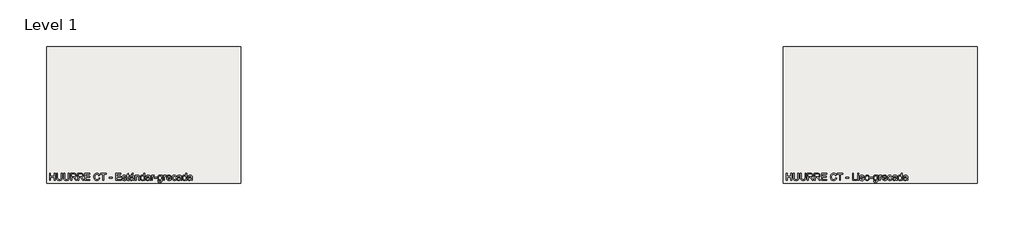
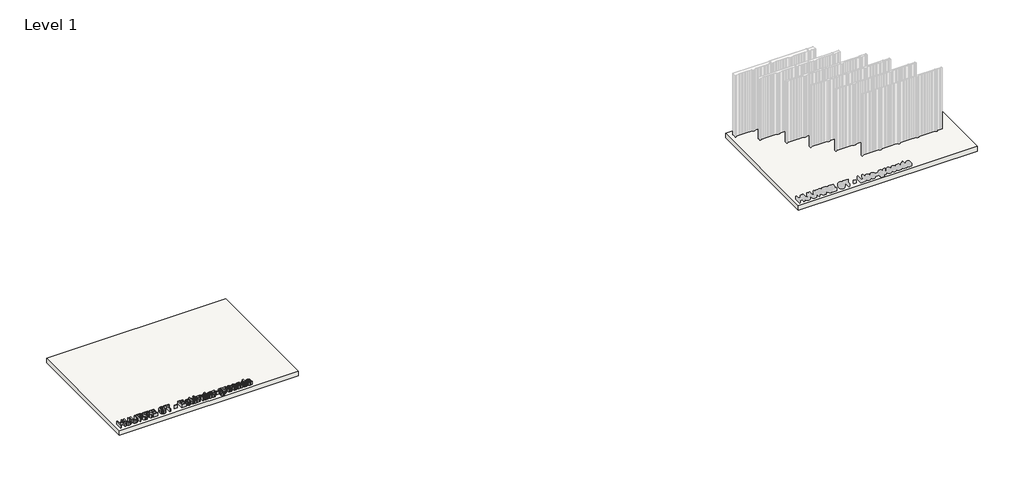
# One storey, part 1 of 2: 2 slabs, 1 proxy.
"""IFC4 building model written with IfcOpenShell, lengths in millimetres."""

from ifc_helpers import new_model, si_unit, frame, origin, origin_with_axes, place, context, project, spatial, polyline, outline, extrude, element, save

model = new_model("IFC4")

# Units and contexts
model_context = context("Model", 3, world=origin())
ifc_project = project(units=[si_unit("LENGTHUNIT", "METRE", prefix="MILLI")], contexts=[model_context])

# Site, building, storey
site = spatial("IfcSite", under=ifc_project)
building = spatial("IfcBuilding", under=site)
storey = spatial("IfcBuildingStorey", under=building, Name="Level 1", Elevation=0.0)

# Proxy
placement = place(None, origin())
element("IfcBuildingElementProxy", 1, Name="200mm Arial", ObjectType="200mm Arial", at=placement, inside=storey, context=model_context, shape_type="SweptSolid", body=[
    extrude(outline(polyline([(-8319.1902574, 798.4307978), (-8319.1902574, 999.3434181), (-8294.0761799, 999.3434181), (-8294.0761799, 917.7226661), (-8187.3413503, 917.7226661), (-8187.3413503, 999.3434181), (-8162.2272728, 999.3434181), (-8162.2272728, 798.4307978), (-8187.3413503, 798.4307978), (-8187.3413503, 892.6085886), (-8294.0761799, 892.6085886), (-8294.0761799, 798.4307978), (-8319.1902574, 798.4307978)])), origin_with_axes(), (0.0, 0.0, 1.0), 100.0),
    extrude(outline(polyline([(-7986.42873, 999.3434181), (-7961.3146525, 999.3434181), (-7961.3146525, 883.4360642), (-7963.0191724, 856.2925043), (-7968.1327321, 835.3906756), (-7977.6854013, 819.2651815), (-7992.7072494, 806.4506253), (-8013.2350647, 798.0813099), (-8039.3056355, 795.2915381), (-8064.8059891, 797.7195593), (-8085.192783, 805.0036228), (-8100.4721485, 816.8923426), (-8110.6502171, 833.1343327), (-8116.3707821, 854.9190782), (-8118.2776371, 883.4360642), (-8118.2776371, 999.3434181), (-8093.1635596, 999.3434181), (-8093.1635596, 884.318981), (-8091.9250235, 861.7494205), (-8088.2094154, 846.034728), (-8081.4771748, 835.1515523), (-8071.1887417, 827.0765425), (-8057.7733116, 822.0733474), (-8041.6600802, 820.4056157), (-8016.116807, 823.7042909), (-7999.1329216, 833.6003165), (-7989.6047779, 852.8773331), (-7986.42873, 884.318981), (-7986.42873, 999.3434181)])), origin_with_axes(), (0.0, 0.0, 1.0), 100.0),
    extrude(outline(polyline([(-7785.5161097, 999.3434181), (-7760.4020322, 999.3434181), (-7760.4020322, 883.4360642), (-7762.1065521, 856.2925043), (-7767.2201118, 835.3906756), (-7776.772781, 819.2651815), (-7791.7946291, 806.4506253), (-7812.3224444, 798.0813099), (-7838.3930152, 795.2915381), (-7863.8933688, 797.7195593), (-7884.2801627, 805.0036228), (-7899.5595282, 816.8923426), (-7909.7375968, 833.1343327), (-7915.4581618, 854.9190782), (-7917.3650168, 883.4360642), (-7917.3650168, 999.3434181), (-7892.2509393, 999.3434181), (-7892.2509393, 884.318981), (-7891.0124032, 861.7494205), (-7887.2967951, 846.034728), (-7880.5645545, 835.1515523), (-7870.2761214, 827.0765425), (-7856.8606913, 822.0733474), (-7840.7474599, 820.4056157), (-7815.2041867, 823.7042909), (-7798.2203013, 833.6003165), (-7788.6921576, 852.8773331), (-7785.5161097, 884.318981), (-7785.5161097, 999.3434181)])), origin_with_axes(), (0.0, 0.0, 1.0), 100.0),
    extrude(outline(polyline([(-7716.4523965, 798.4307978), (-7716.4523965, 999.3434181), (-7629.8775003, 999.3434181), (-7606.6089641, 997.9883861), (-7589.680261, 993.92329), (-7577.3071632, 986.4184973), (-7567.7054431, 974.7443754), (-7561.5434197, 960.2682189), (-7559.4894119, 944.3573226), (-7562.8923203, 924.5652712), (-7573.1010457, 908.1577342), (-7590.4221563, 896.127993), (-7615.1622205, 889.4693289), (-7600.8883991, 878.7271746), (-7580.532262, 852.8773331), (-7547.030475, 798.4307978), (-7576.2157799, 798.4307978), (-7602.3599271, 840.0750397), (-7621.2445361, 867.6416638), (-7634.5128134, 880.6646865), (-7646.4567156, 885.4471524), (-7661.0248426, 886.3300692), (-7691.338319, 886.3300692), (-7691.338319, 798.4307978), (-7716.4523965, 798.4307978)]), holes=[polyline([(-7691.338319, 911.4441467), (-7635.1259501, 911.4441467), (-7606.4556799, 915.0003393), (-7597.0256381, 919.6233898), (-7590.1707703, 926.3801557), (-7584.6034894, 943.4253548), (-7587.2583712, 955.6758253), (-7595.2230164, 965.5473255), (-7608.9266207, 972.0588368), (-7628.7983798, 974.2293406), (-7691.338319, 974.2293406), (-7691.338319, 911.4441467)])]), origin_with_axes(), (0.0, 0.0, 1.0), 100.0),
    extrude(outline(polyline([(-7515.5397762, 798.4307978), (-7515.5397762, 999.3434181), (-7428.96488, 999.3434181), (-7405.6963438, 997.9883861), (-7388.7676407, 993.92329), (-7376.3945429, 986.4184973), (-7366.7928228, 974.7443754), (-7360.6307994, 960.2682189), (-7358.5767916, 944.3573226), (-7361.9797, 924.5652712), (-7372.1884254, 908.1577342), (-7389.509536, 896.127993), (-7414.2496002, 889.4693289), (-7399.9757788, 878.7271746), (-7379.6196417, 852.8773331), (-7346.1178547, 798.4307978), (-7375.3031596, 798.4307978), (-7401.4473068, 840.0750397), (-7420.3319158, 867.6416638), (-7433.6001931, 880.6646865), (-7445.5440953, 885.4471524), (-7460.1122223, 886.3300692), (-7490.4256987, 886.3300692), (-7490.4256987, 798.4307978), (-7515.5397762, 798.4307978)]), holes=[polyline([(-7490.4256987, 911.4441467), (-7434.2133298, 911.4441467), (-7405.5430596, 915.0003393), (-7396.1130178, 919.6233898), (-7389.25815, 926.3801557), (-7383.6908691, 943.4253548), (-7386.3457509, 955.6758253), (-7394.3103961, 965.5473255), (-7408.0140004, 972.0588368), (-7427.8857595, 974.2293406), (-7490.4256987, 974.2293406), (-7490.4256987, 911.4441467)])]), origin_with_axes(), (0.0, 0.0, 1.0), 100.0),
    extrude(outline(polyline([(-7314.6271559, 798.4307978), (-7314.6271559, 999.3434181), (-7170.2212101, 999.3434181), (-7170.2212101, 974.2293406), (-7289.5130784, 974.2293406), (-7289.5130784, 914.5834064), (-7176.4997294, 914.5834064), (-7176.4997294, 889.4693289), (-7289.5130784, 889.4693289), (-7289.5130784, 823.5448753), (-7167.0819504, 823.5448753), (-7167.0819504, 798.4307978), (-7314.6271559, 798.4307978)])), origin_with_axes(), (0.0, 0.0, 1.0), 100.0),
    extrude(outline(polyline([(-6909.6626556, 869.8489558), (-6884.5485781, 863.3742327), (-6896.1368609, 834.10922), (-6914.3224942, 812.7291447), (-6938.2102984, 799.6509398), (-6966.9050941, 795.2915381), (-6996.0352167, 798.5902133), (-7019.1688628, 808.486239), (-7036.900775, 824.6362586), (-7049.8256958, 846.6969156), (-7057.7167646, 872.6325962), (-7060.3471208, 900.4076869), (-7057.373408, 929.7033564), (-7048.4522697, 955.001375), (-7034.0496895, 975.4985335), (-7014.6316516, 990.3916229), (-6991.6022387, 999.4599141), (-6966.3655338, 1002.4826778), (-6938.8295665, 998.5708659), (-6916.0638023, 986.8354303), (-6898.7794799, 967.9998721), (-6887.6878378, 942.7876927), (-6912.8019153, 936.8034789), (-6921.5084559, 955.1178709), (-6933.403307, 967.6810411), (-6948.6336216, 974.9467105), (-6967.3465525, 977.3686003), (-6988.9167001, 974.6830617), (-7006.6363495, 966.626446), (-7020.0824365, 954.0448818), (-7028.8318966, 937.7844976), (-7033.6327566, 919.4026606), (-7035.2330433, 900.4567378), (-7033.338451, 877.2556466), (-7027.6546742, 857.1938152), (-7017.967115, 841.0376642), (-7004.0611756, 829.5536146), (-6987.3899898, 822.6926154), (-6969.4066916, 820.4056157), (-6948.4435493, 823.5203499), (-6930.9752859, 832.8645526), (-6917.7867163, 848.3401218), (-6909.6626556, 869.8489558)])), origin_with_axes(), (0.0, 0.0, 1.0), 100.0),
    extrude(outline(polyline([(-6799.7885664, 798.4307978), (-6799.7885664, 974.2293406), (-6865.7130199, 974.2293406), (-6865.7130199, 999.3434181), (-6708.7500353, 999.3434181), (-6708.7500353, 974.2293406), (-6774.6744888, 974.2293406), (-6774.6744888, 798.4307978), (-6799.7885664, 798.4307978)])), origin_with_axes(), (0.0, 0.0, 1.0), 100.0),
    extrude(outline(polyline([(-6617.7115042, 858.076732), (-6617.7115042, 883.1908095), (-6539.2300119, 883.1908095), (-6539.2300119, 858.076732), (-6617.7115042, 858.076732)])), origin_with_axes(), (0.0, 0.0, 1.0), 100.0),
    extrude(outline(polyline([(-6429.3559227, 798.4307978), (-6429.3559227, 999.3434181), (-6284.9499769, 999.3434181), (-6284.9499769, 974.2293406), (-6404.2418452, 974.2293406), (-6404.2418452, 914.5834064), (-6291.2284963, 914.5834064), (-6291.2284963, 889.4693289), (-6404.2418452, 889.4693289), (-6404.2418452, 823.5448753), (-6281.8107172, 823.5448753), (-6281.8107172, 798.4307978), (-6429.3559227, 798.4307978)])), origin_with_axes(), (0.0, 0.0, 1.0), 100.0),
    extrude(outline(polyline([(-6256.6966396, 842.3804335), (-6231.5825621, 845.5196932), (-6227.6216993, 834.7775389), (-6219.9574911, 826.8803388), (-6208.5408865, 822.0242964), (-6193.3228346, 820.4056157), (-6178.2887237, 821.8894064), (-6167.7182477, 826.3407785), (-6161.4642538, 832.7909762), (-6159.3795892, 840.2712434), (-6161.4765166, 846.6723901), (-6167.7672987, 851.5529579), (-6193.6171402, 858.7143941), (-6231.4354093, 871.0016527), (-6241.0064725, 877.1759389), (-6247.9410482, 885.3490505), (-6253.5573799, 905.6070857), (-6249.0446941, 924.3200166), (-6236.73291, 938.6183634), (-6220.7668314, 946.0495797), (-6199.1598956, 949.115263), (-6168.6011645, 944.1856443), (-6157.1722972, 938.3853715), (-6149.1769952, 930.8437906), (-6140.544031, 908.304887), (-6165.6581086, 905.1656273), (-6168.8280251, 913.0689589), (-6175.1004131, 919.0225158), (-6197.1978583, 924.0011855), (-6211.6188325, 922.8117004), (-6221.2328153, 919.243245), (-6226.6406806, 914.0928971), (-6228.4433024, 908.1577342), (-6225.4511955, 900.8491453), (-6216.0824674, 895.3063899), (-6194.4510061, 889.9598382), (-6157.5892301, 878.1385634), (-6140.4704546, 864.7476588), (-6135.8167474, 854.9006841), (-6134.2655116, 842.9199938), (-6136.0865275, 830.5346333), (-6141.5495751, 818.8850367), (-6150.4461881, 808.8847778), (-6162.5678998, 801.4474302), (-6177.2096032, 796.8305111), (-6193.6661911, 795.2915381), (-6218.9887351, 798.2591195), (-6237.468674, 807.1618638), (-6249.8049836, 821.9016691), (-6256.6966396, 842.3804335)])), origin_with_axes(), (0.0, 0.0, 1.0), 100.0),
    extrude(outline(polyline([(-6052.6447596, 819.3755461), (-6049.5055, 797.6950338), (-6068.2920072, 795.2915381), (-6089.3348573, 799.4608674), (-6099.8317569, 810.3992254), (-6102.8729147, 838.8978173), (-6102.8729147, 920.8619258), (-6121.7084729, 920.8619258), (-6121.7084729, 945.9760033), (-6102.8729147, 945.9760033), (-6102.8729147, 981.8322351), (-6077.7588372, 996.5965659), (-6077.7588372, 945.9760033), (-6052.6447596, 945.9760033), (-6052.6447596, 920.8619258), (-6077.7588372, 920.8619258), (-6077.7588372, 839.6335813), (-6076.434462, 826.684135), (-6072.1425054, 822.0978728), (-6063.5831176, 820.4056157), (-6052.6447596, 819.3755461)])), origin_with_axes(), (0.0, 0.0, 1.0), 100.0),
    extrude(outline(polyline([(-5933.3528913, 817.266356), (-5957.7066794, 800.2456823), (-5984.611116, 795.2915381), (-6005.5987838, 798.2713823), (-6021.0804845, 807.2109148), (-6030.6270222, 820.7857604), (-6033.8092015, 837.671544), (-6029.0022101, 857.5371717), (-6016.3715949, 871.9581459), (-5998.7868356, 880.1987026), (-5977.0572724, 883.9756244), (-5933.5000441, 892.6085886), (-5933.3528913, 898.2003949), (-5935.0819367, 909.408533), (-5940.2690729, 916.7416475), (-5951.8696184, 922.186301), (-5968.0319008, 924.0011855), (-5982.9924352, 922.7933063), (-5993.4402839, 919.1696686), (-6000.5649319, 912.4680849), (-6005.5558643, 902.0263677), (-6030.6699418, 905.1656273), (-6019.8051602, 929.6910937), (-6010.5467967, 937.9439131), (-5997.9284442, 944.063017), (-5964.7945392, 949.115263), (-5934.3584355, 944.6516282), (-5917.1660836, 933.44349), (-5909.4650871, 916.3982909), (-5908.2388138, 894.4234731), (-5908.2388138, 863.178029), (-5906.9634896, 819.5472243), (-5901.9602944, 798.4307978), (-5927.074372, 798.4307978), (-5933.3528913, 817.266356)]), holes=[polyline([(-5933.3528913, 867.494511), (-5973.8689617, 859.7935146), (-5995.4758976, 855.7222872), (-6005.2615587, 849.1004113), (-6008.695124, 839.4373775), (-6006.8250571, 831.969373), (-6001.2148567, 825.8502692), (-5991.98715, 821.766779), (-5979.2645643, 820.4056157), (-5965.7755579, 821.9078005), (-5953.8561812, 826.4143549), (-5937.4731697, 840.9579565), (-5933.5000441, 860.3821258), (-5933.3528913, 867.494511)])]), origin_with_axes(), (0.0, 0.0, 1.0), 100.0),
    extrude(outline(polyline([(-5983.5810464, 961.6723018), (-5964.7454883, 999.3434181), (-5933.3528913, 999.3434181), (-5964.7454883, 961.6723018), (-5983.5810464, 961.6723018)])), origin_with_axes(), (0.0, 0.0, 1.0), 100.0),
    extrude(outline(polyline([(-5873.7069572, 798.4307978), (-5873.7069572, 945.9760033), (-5848.5928797, 945.9760033), (-5848.5928797, 925.3746116), (-5839.867945, 935.7611466), (-5829.3894395, 943.1801002), (-5817.1573632, 947.6314723), (-5803.171716, 949.115263), (-5779.45559, 944.3327971), (-5763.2687822, 931.7757583), (-5755.7394641, 913.3080822), (-5754.4150889, 889.0278705), (-5754.4150889, 798.4307978), (-5779.5291664, 798.4307978), (-5779.5291664, 885.6433561), (-5782.4231715, 907.8634286), (-5792.6502909, 919.611127), (-5809.8916938, 924.0011855), (-5824.6008422, 921.5363761), (-5837.1394869, 914.141948), (-5845.7295315, 899.8558639), (-5848.5928797, 876.7160864), (-5848.5928797, 798.4307978), (-5873.7069572, 798.4307978)])), origin_with_axes(), (0.0, 0.0, 1.0), 100.0),
    extrude(outline(polyline([(-5628.8447012, 798.4307978), (-5628.8447012, 822.1223983), (-5636.358691, 810.383897), (-5645.4607047, 801.9992532), (-5656.1507423, 796.9684669), (-5668.4288039, 795.2915381), (-5684.6646626, 797.7195593), (-5699.5270952, 805.0036228), (-5712.1086594, 816.6348252), (-5721.5019131, 832.1042631), (-5727.3512368, 850.7865371), (-5729.3010114, 872.0562478), (-5727.5045209, 893.0623097), (-5722.1150497, 912.0327579), (-5713.138729, 927.8884719), (-5700.5816903, 939.5503312), (-5685.3942952, 946.7240301), (-5668.5269058, 949.115263), (-5656.2396471, 947.4046118), (-5645.3748655, 942.2726579), (-5628.8447012, 924.4916948), (-5628.8447012, 999.3434181), (-5603.7306237, 999.3434181), (-5603.7306237, 798.4307978), (-5628.8447012, 798.4307978)]), holes=[polyline([(-5704.1869338, 872.1543496), (-5701.3542425, 849.4376364), (-5692.8561684, 833.2814855), (-5680.5075961, 823.6245831), (-5666.12341, 820.4056157), (-5651.7453554, 823.4774303), (-5639.7094828, 832.6928743), (-5631.5608966, 848.2236259), (-5628.8447012, 870.2413633), (-5631.6099475, 894.3131085), (-5639.9056865, 911.0026883), (-5652.2481275, 920.7515612), (-5667.1534796, 924.0011855), (-5681.6848184, 920.8803199), (-5693.5919324, 911.5177231), (-5701.5381835, 895.4351486), (-5704.1869338, 872.1543496)])]), origin_with_axes(), (0.0, 0.0, 1.0), 100.0),
    extrude(outline(polyline([(-5471.8817166, 817.266356), (-5496.2355047, 800.2456823), (-5523.1399413, 795.2915381), (-5544.1276091, 798.2713823), (-5559.6093097, 807.2109148), (-5569.1558475, 820.7857604), (-5572.3380267, 837.671544), (-5567.5310353, 857.5371717), (-5554.9004202, 871.9581459), (-5537.3156608, 880.1987026), (-5515.5860976, 883.9756244), (-5472.0288694, 892.6085886), (-5471.8817166, 898.2003949), (-5473.610762, 909.408533), (-5478.7978981, 916.7416475), (-5490.3984437, 922.186301), (-5506.560726, 924.0011855), (-5521.5212605, 922.7933063), (-5531.9691091, 919.1696686), (-5539.0937571, 912.4680849), (-5544.0846895, 902.0263677), (-5569.1987671, 905.1656273), (-5558.3339855, 929.6910937), (-5549.0756219, 937.9439131), (-5536.4572695, 944.063017), (-5503.3233644, 949.115263), (-5472.8872607, 944.6516282), (-5455.6949088, 933.44349), (-5447.9939124, 916.3982909), (-5446.7676391, 894.4234731), (-5446.7676391, 863.178029), (-5445.4923148, 819.5472243), (-5440.4891197, 798.4307978), (-5465.6031972, 798.4307978), (-5471.8817166, 817.266356)]), holes=[polyline([(-5471.8817166, 867.494511), (-5512.397787, 859.7935146), (-5534.0047228, 855.7222872), (-5543.7903839, 849.1004113), (-5547.2239492, 839.4373775), (-5545.3538824, 831.969373), (-5539.743682, 825.8502692), (-5530.5159753, 821.766779), (-5517.7933896, 820.4056157), (-5504.3043831, 821.9078005), (-5492.3850065, 826.4143549), (-5476.0019949, 840.9579565), (-5472.0288694, 860.3821258), (-5471.8817166, 867.494511)])]), origin_with_axes(), (0.0, 0.0, 1.0), 100.0),
    extrude(outline(polyline([(-5412.2357824, 798.4307978), (-5412.2357824, 945.9760033), (-5390.2609646, 945.9760033), (-5390.2609646, 924.1483383), (-5374.662768, 944.2592207), (-5358.9664695, 949.115263), (-5346.4584817, 947.1777512), (-5333.7542901, 941.3652157), (-5342.1419996, 918.8508376), (-5359.8003354, 924.0011855), (-5374.0005804, 919.0470413), (-5383.0504775, 905.3127801), (-5387.1217049, 875.9803224), (-5387.1217049, 798.4307978), (-5412.2357824, 798.4307978)])), origin_with_axes(), (0.0, 0.0, 1.0), 100.0),
    extrude(outline(polyline([(-5330.6150304, 858.076732), (-5330.6150304, 883.1908095), (-5252.1335381, 883.1908095), (-5252.1335381, 858.076732), (-5330.6150304, 858.076732)])), origin_with_axes(), (0.0, 0.0, 1.0), 100.0),
    extrude(outline(polyline([(-5230.1587203, 785.873759), (-5205.0446428, 782.7344994), (-5202.2732651, 774.8863501), (-5196.9021879, 769.4907475), (-5186.3439747, 765.2968928), (-5172.5238744, 763.8989412), (-5157.7840691, 765.4808338), (-5146.8211857, 770.2265115), (-5139.2182911, 777.8294061), (-5134.5584525, 787.9829491), (-5132.8416698, 817.266356), (-5150.5245311, 803.1396873), (-5172.082416, 798.4307978), (-5197.9751771, 803.9122395), (-5217.2828505, 820.3565647), (-5229.2941976, 844.4650981), (-5233.29798, 872.9391646), (-5231.5014896, 893.2155939), (-5226.1120184, 911.8610797), (-5217.3196387, 927.6616113), (-5205.3144229, 939.4031784), (-5190.5071726, 946.6872419), (-5173.3086893, 949.115263), (-5150.9046758, 943.6215586), (-5132.8416698, 927.1404452), (-5132.8416698, 945.9760033), (-5107.7275923, 945.9760033), (-5107.7275923, 818.5907311), (-5109.4443749, 789.1785656), (-5114.5947229, 769.8095786), (-5123.4668103, 756.9643656), (-5136.3488115, 747.1235222), (-5152.9586836, 740.8695283), (-5173.0143837, 738.7848637), (-5196.3810218, 741.7217883), (-5214.7812529, 750.532562), (-5226.5841336, 765.2417105), (-5230.1587203, 785.873759)]), holes=[polyline([(-5208.1839025, 874.6559472), (-5205.5044953, 851.6204029), (-5197.4662737, 835.7830831), (-5185.3813501, 826.6044273), (-5170.5618371, 823.5448753), (-5155.8526886, 826.5860332), (-5143.7064514, 835.7095067), (-5135.5578652, 851.3444915), (-5132.8416698, 873.9201832), (-5135.637573, 895.692666), (-5144.0252825, 911.3705703), (-5156.3493293, 920.8435317), (-5170.9542445, 924.0011855), (-5185.295511, 920.8925826), (-5197.3191209, 911.5667741), (-5205.4677071, 896.1218616), (-5208.1839025, 874.6559472)])]), origin_with_axes(), (0.0, 0.0, 1.0), 100.0),
    extrude(outline(polyline([(-5070.056476, 798.4307978), (-5070.056476, 945.9760033), (-5048.0816582, 945.9760033), (-5048.0816582, 924.1483383), (-5032.4834616, 944.2592207), (-5016.7871631, 949.115263), (-5004.2791753, 947.1777512), (-4991.5749837, 941.3652157), (-4999.9626932, 918.8508376), (-5017.621029, 924.0011855), (-5031.821274, 919.0470413), (-5040.871171, 905.3127801), (-5044.9423985, 875.9803224), (-5044.9423985, 798.4307978), (-5070.056476, 798.4307978)])), origin_with_axes(), (0.0, 0.0, 1.0), 100.0),
    extrude(outline(polyline([(-4872.577421, 842.3804335), (-4847.9538528, 839.2411738), (-4856.8259402, 820.6876585), (-4870.9832657, 806.8185073), (-4890.1069981, 798.1732804), (-4913.8783063, 795.2915381), (-4943.3456541, 800.2640764), (-4966.0194478, 815.1816913), (-4980.4772102, 839.0756269), (-4985.2964643, 870.9771273), (-4980.4281592, 903.9516168), (-4965.823244, 928.6119732), (-4943.4560187, 943.9894406), (-4915.3007834, 949.115263), (-4888.0223334, 944.0017033), (-4866.2253252, 928.6610241), (-4851.9331097, 904.0497186), (-4847.1690379, 871.1242801), (-4847.3161907, 864.3552513), (-4960.1823868, 864.3552513), (-4955.8352479, 845.5564814), (-4945.7368871, 831.7363811), (-4931.1626287, 823.238307), (-4913.387797, 820.4056157), (-4888.7642288, 825.6540655), (-4879.6162298, 832.4598824), (-4872.577421, 842.3804335)]), holes=[polyline([(-4960.1823868, 889.4693289), (-4872.2831154, 889.4693289), (-4875.6798925, 902.7376062), (-4882.3385566, 912.2289617), (-4896.98026, 921.0581295), (-4915.3988852, 924.0011855), (-4932.3275884, 921.6528721), (-4946.3254983, 914.6079319), (-4956.0559771, 903.6266543), (-4960.1823868, 889.4693289)])]), origin_with_axes(), (0.0, 0.0, 1.0), 100.0),
    extrude(outline(polyline([(-4727.8771695, 851.7982126), (-4702.763092, 848.6589529), (-4709.7651127, 826.3223844), (-4722.9230253, 809.4427322), (-4740.998294, 798.8293366), (-4762.7523827, 795.2915381), (-4789.4667469, 800.2272882), (-4810.3563129, 815.0345385), (-4823.839188, 839.0633642), (-4828.3334797, 871.6638403), (-4826.414362, 894.0126715), (-4820.6570087, 913.3816586), (-4810.9694495, 929.0227747), (-4797.2597138, 940.1879933), (-4780.8583082, 946.8834456), (-4763.0957392, 949.115263), (-4741.8750795, 946.0495797), (-4724.9095881, 936.8525299), (-4712.7388254, 922.0146227), (-4705.9023517, 902.0263677), (-4731.0164292, 898.887108), (-4735.5720346, 909.8438601), (-4742.6660258, 917.6981406), (-4751.9059952, 922.4254243), (-4762.8995355, 924.0011855), (-4779.1292628, 920.898714), (-4792.011264, 911.5912995), (-4800.4173676, 895.57617), (-4803.2194022, 872.3505534), (-4800.4786813, 848.8122371), (-4792.2565187, 832.7419252), (-4779.6075094, 823.489693), (-4763.5862485, 820.4056157), (-4750.58162, 822.3308648), (-4739.9191735, 828.1066121), (-4732.1629948, 837.8800104), (-4727.8771695, 851.7982126)])), origin_with_axes(), (0.0, 0.0, 1.0), 100.0),
    extrude(outline(polyline([(-4586.6104834, 817.266356), (-4610.9642715, 800.2456823), (-4637.8687081, 795.2915381), (-4658.8563759, 798.2713823), (-4674.3380765, 807.2109148), (-4683.8846143, 820.7857604), (-4687.0667936, 837.671544), (-4682.2598021, 857.5371717), (-4669.629187, 871.9581459), (-4652.0444276, 880.1987026), (-4630.3148644, 883.9756244), (-4586.7576362, 892.6085886), (-4586.6104834, 898.2003949), (-4588.3395288, 909.408533), (-4593.5266649, 916.7416475), (-4605.1272105, 922.186301), (-4621.2894928, 924.0011855), (-4636.2500273, 922.7933063), (-4646.6978759, 919.1696686), (-4653.8225239, 912.4680849), (-4658.8134563, 902.0263677), (-4683.9275339, 905.1656273), (-4673.0627523, 929.6910937), (-4663.8043887, 937.9439131), (-4651.1860363, 944.063017), (-4618.0521313, 949.115263), (-4587.6160275, 944.6516282), (-4570.4236756, 933.44349), (-4562.7226792, 916.3982909), (-4561.4964059, 894.4234731), (-4561.4964059, 863.178029), (-4560.2210816, 819.5472243), (-4555.2178865, 798.4307978), (-4580.331964, 798.4307978), (-4586.6104834, 817.266356)]), holes=[polyline([(-4586.6104834, 867.494511), (-4627.1265538, 859.7935146), (-4648.7334897, 855.7222872), (-4658.5191507, 849.1004113), (-4661.952716, 839.4373775), (-4660.0826492, 831.969373), (-4654.4724488, 825.8502692), (-4645.2447421, 821.766779), (-4632.5221564, 820.4056157), (-4619.0331499, 821.9078005), (-4607.1137733, 826.4143549), (-4590.7307617, 840.9579565), (-4586.7576362, 860.3821258), (-4586.6104834, 867.494511)])]), origin_with_axes(), (0.0, 0.0, 1.0), 100.0),
    extrude(outline(polyline([(-4435.9260182, 798.4307978), (-4435.9260182, 822.1223983), (-4443.4400079, 810.383897), (-4452.5420216, 801.9992532), (-4463.2320593, 796.9684669), (-4475.5101209, 795.2915381), (-4491.7459796, 797.7195593), (-4506.6084122, 805.0036228), (-4519.1899764, 816.6348252), (-4528.58323, 832.1042631), (-4534.4325538, 850.7865371), (-4536.3823283, 872.0562478), (-4534.5858379, 893.0623097), (-4529.1963667, 912.0327579), (-4520.220046, 927.8884719), (-4507.6630072, 939.5503312), (-4492.4756122, 946.7240301), (-4475.6082227, 949.115263), (-4463.3209641, 947.4046118), (-4452.4561825, 942.2726579), (-4435.9260182, 924.4916948), (-4435.9260182, 999.3434181), (-4410.8119406, 999.3434181), (-4410.8119406, 798.4307978), (-4435.9260182, 798.4307978)]), holes=[polyline([(-4511.2682508, 872.1543496), (-4508.4355594, 849.4376364), (-4499.9374853, 833.2814855), (-4487.588913, 823.6245831), (-4473.204727, 820.4056157), (-4458.8266724, 823.4774303), (-4446.7907998, 832.6928743), (-4438.6422136, 848.2236259), (-4435.9260182, 870.2413633), (-4438.6912645, 894.3131085), (-4446.9870035, 911.0026883), (-4459.3294444, 920.7515612), (-4474.2347966, 924.0011855), (-4488.7661354, 920.8803199), (-4500.6732493, 911.5177231), (-4508.6195004, 895.4351486), (-4511.2682508, 872.1543496)])]), origin_with_axes(), (0.0, 0.0, 1.0), 100.0),
    extrude(outline(polyline([(-4278.9630336, 817.266356), (-4303.3168216, 800.2456823), (-4330.2212582, 795.2915381), (-4351.2089261, 798.2713823), (-4366.6906267, 807.2109148), (-4376.2371645, 820.7857604), (-4379.4193437, 837.671544), (-4374.6123523, 857.5371717), (-4361.9817371, 871.9581459), (-4344.3969778, 880.1987026), (-4322.6674146, 883.9756244), (-4279.1101864, 892.6085886), (-4278.9630336, 898.2003949), (-4280.6920789, 909.408533), (-4285.8792151, 916.7416475), (-4297.4797607, 922.186301), (-4313.642043, 924.0011855), (-4328.6025775, 922.7933063), (-4339.0504261, 919.1696686), (-4346.1750741, 912.4680849), (-4351.1660065, 902.0263677), (-4376.280084, 905.1656273), (-4365.4153024, 929.6910937), (-4356.1569389, 937.9439131), (-4343.5385865, 944.063017), (-4310.4046814, 949.115263), (-4279.9685777, 944.6516282), (-4262.7762258, 933.44349), (-4255.0752293, 916.3982909), (-4253.848956, 894.4234731), (-4253.848956, 863.178029), (-4252.5736318, 819.5472243), (-4247.5704366, 798.4307978), (-4272.6845142, 798.4307978), (-4278.9630336, 817.266356)]), holes=[polyline([(-4278.9630336, 867.494511), (-4319.479104, 859.7935146), (-4341.0860398, 855.7222872), (-4350.8717009, 849.1004113), (-4354.3052662, 839.4373775), (-4352.4351994, 831.969373), (-4346.8249989, 825.8502692), (-4337.5972922, 821.766779), (-4324.8747066, 820.4056157), (-4311.3857001, 821.9078005), (-4299.4663234, 826.4143549), (-4283.0833119, 840.9579565), (-4279.1101864, 860.3821258), (-4278.9630336, 867.494511)])]), origin_with_axes(), (0.0, 0.0, 1.0), 100.0),
])

# Slabs
element("IfcSlab", 2, ObjectType="Generic Floor - 150mm", at=placement, inside=storey, context=model_context, shape_type="SweptSolid", body=[
    extrude(outline(polyline([(-2869.8209671, 4615.2076786), (-2869.8209671, 715.2076786), (-8405.090184, 715.2076786), (-8405.090184, 4615.2076786), (-2869.8209671, 4615.2076786)])), frame((0.0, 0.0, -150.0), z_axis=(0.0, 0.0, 1.0), x_axis=(1.0, 0.0, 0.0)), (0.0, 0.0, 1.0), 150.0),
])
element("IfcSlab", 3, ObjectType="Generic Floor - 150mm", at=placement, inside=storey, context=model_context, shape_type="SweptSolid", body=[
    extrude(outline(polyline([(18130.1790329, 4615.2076786), (18130.1790329, 715.2076786), (12594.909816, 715.2076786), (12594.909816, 4615.2076786), (18130.1790329, 4615.2076786)])), frame((0.0, 0.0, -150.0), z_axis=(0.0, 0.0, 1.0), x_axis=(1.0, 0.0, 0.0)), (0.0, 0.0, 1.0), 150.0),
])

save(model, "model.ifc")
